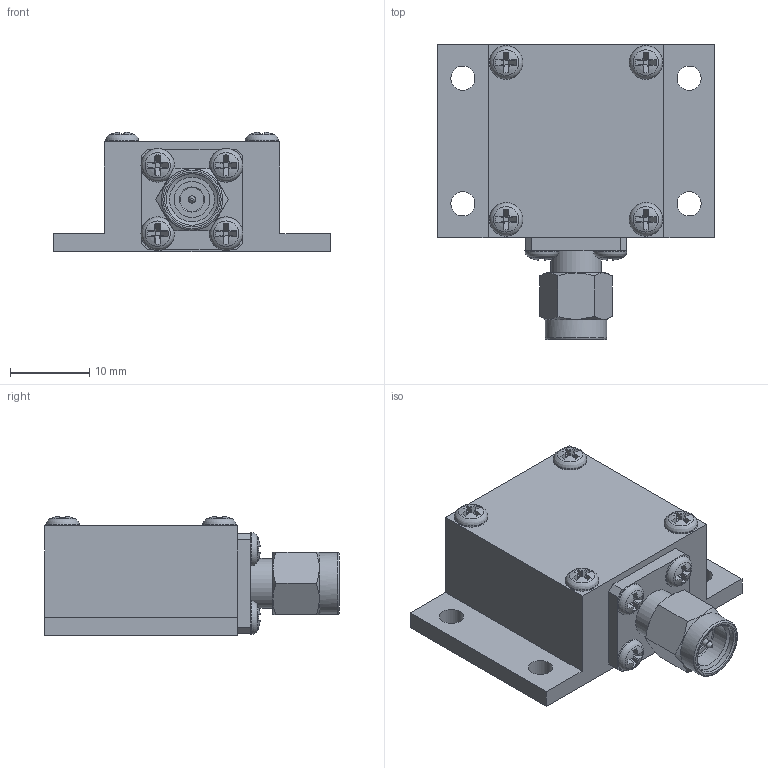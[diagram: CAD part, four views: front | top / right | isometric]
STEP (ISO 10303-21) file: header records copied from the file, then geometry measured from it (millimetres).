
FILE_DESCRIPTION(/* description */ ('Unknown'),/* implementation_level */ '2;1');
FILE_NAME(/* name */ '100-CT-MA Rev A STEP',/* time_stamp */ '2022-06-17T10:41:28-04:00',/* author */ ('Unknown'),/* organization */ ('Unknown'),/* preprocessor_version */ 'ST-DEVELOPER v18.102',/* originating_system */ 'Solid Edge',/* authorisation */ 'Unknown');
FILE_SCHEMA (('AUTOMOTIVE_DESIGN {1 0 10303 214 3 1 1}'));
Length unit declared in the file: millimetre
Products named in the file (1): 100-CT-MA
Bounding box: 34.92 x 37.26 x 15.1 mm (x, y, z)
Volume: 8931.2 mm3; surface area: 3731.2 mm2
Topology: 1 solids, 1 shells, 231 faces, 625 edges, 408 vertices
Faces by surface type: plane 148, cylinder 44, cone 20, torus 11, sphere 8
Full cylindrical faces by diameter (mm): 0.91 x1, 2.975 x1, 3.048 x4, 4.53 x1, 5.65 x1, 6.32 x1, 6.45 x1, 6.5 x1, 7.75 x1
Entity records: 8729 total; most frequent: CARTESIAN_POINT 1398, DIRECTION 1252, ORIENTED_EDGE 1122, EDGE_CURVE 561, AXIS2_PLACEMENT_3D 509, VERTEX_POINT 389, EDGE_LOOP 296, FACE_BOUND 296
